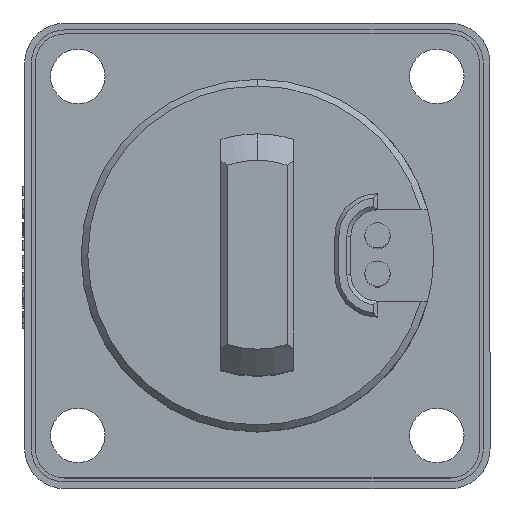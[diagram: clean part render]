
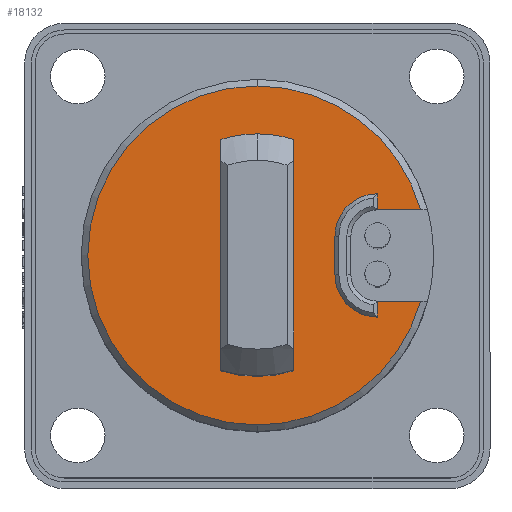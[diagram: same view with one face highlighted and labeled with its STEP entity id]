
A CAD part, top view. The second image highlights one B-rep face of the part: STEP entity #18132.
In plain terms, the highlighted planar face has unit normal (0, 0, 1).
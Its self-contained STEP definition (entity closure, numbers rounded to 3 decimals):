
#136 = DIRECTION ( 'NONE',  ( 1., 0., 0. ) ) ;
#216 = CARTESIAN_POINT ( 'NONE',  ( 6.813, 1.203, 21.8 ) ) ;
#303 = VERTEX_POINT ( 'NONE', #12587 ) ;
#340 = CARTESIAN_POINT ( 'NONE',  ( 0.977, 1.203, 21.8 ) ) ;
#838 = ORIENTED_EDGE ( 'NONE', *, *, #7412, .T. ) ;
#1469 = CARTESIAN_POINT ( 'NONE',  ( 10.013, -2.237, 21.8 ) ) ;
#1685 = LINE ( 'NONE', #9358, #5892 ) ;
#1808 = CARTESIAN_POINT ( 'NONE',  ( 0.977, 1.203, 21.8 ) ) ;
#1812 = DIRECTION ( 'NONE',  ( 0., -1., 0. ) ) ;
#1884 = VECTOR ( 'NONE', #1812, 1000. ) ;
#1922 = DIRECTION ( 'NONE',  ( 1., 0., 0. ) ) ;
#2323 = CARTESIAN_POINT ( 'NONE',  ( 0.977, 10.303, 21.8 ) ) ;
#2363 = ORIENTED_EDGE ( 'NONE', *, *, #14472, .F. ) ;
#2897 = EDGE_CURVE ( 'NONE', #12800, #12412, #6587, .T. ) ;
#3015 = EDGE_CURVE ( 'NONE', #11751, #10341, #12429, .T. ) ;
#3053 = DIRECTION ( 'NONE',  ( 0., -1., 0. ) ) ;
#3110 = DIRECTION ( 'NONE',  ( 0., 0., -1. ) ) ;
#3272 = VERTEX_POINT ( 'NONE', #9890 ) ;
#3285 = CARTESIAN_POINT ( 'NONE',  ( 0.977, -11.547, 21.8 ) ) ;
#3300 = CIRCLE ( 'NONE', #13653, 12.75 ) ;
#3332 = CARTESIAN_POINT ( 'NONE',  ( 0.977, 1.203, 21.8 ) ) ;
#3334 = CARTESIAN_POINT ( 'NONE',  ( 10.013, 4.642, 21.8 ) ) ;
#3391 = DIRECTION ( 'NONE',  ( 0., -1., 0. ) ) ;
#4237 = PLANE ( 'NONE',  #19993 ) ;
#4365 = CARTESIAN_POINT ( 'NONE',  ( 3.727, -7.472, 21.8 ) ) ;
#4412 = ORIENTED_EDGE ( 'NONE', *, *, #12731, .T. ) ;
#4920 = DIRECTION ( 'NONE',  ( 0., -1., 0. ) ) ;
#4928 = CIRCLE ( 'NONE', #19280, 9.1 ) ;
#4984 = AXIS2_PLACEMENT_3D ( 'NONE', #12475, #3110, #14054 ) ;
#5073 = DIRECTION ( 'NONE',  ( 0., 0., -1. ) ) ;
#5078 = CIRCLE ( 'NONE', #4984, 12.75 ) ;
#5266 = LINE ( 'NONE', #1469, #8932 ) ;
#5297 = AXIS2_PLACEMENT_3D ( 'NONE', #14434, #5073, #16026 ) ;
#5343 = VERTEX_POINT ( 'NONE', #14448 ) ;
#5452 = CARTESIAN_POINT ( 'NONE',  ( 0.977, 1.203, 21.8 ) ) ;
#5585 = EDGE_CURVE ( 'NONE', #15892, #11205, #17249, .T. ) ;
#5654 = ORIENTED_EDGE ( 'NONE', *, *, #19412, .T. ) ;
#5735 = VECTOR ( 'NONE', #15186, 1000. ) ;
#5892 = VECTOR ( 'NONE', #9563, 1000. ) ;
#5954 = AXIS2_PLACEMENT_3D ( 'NONE', #18085, #8715, #19630 ) ;
#6034 = CIRCLE ( 'NONE', #18238, 9.1 ) ;
#6036 = CARTESIAN_POINT ( 'NONE',  ( 10.013, 5.842, 21.8 ) ) ;
#6306 = EDGE_CURVE ( 'NONE', #18306, #14327, #19178, .T. ) ;
#6587 = LINE ( 'NONE', #17112, #18600 ) ;
#6969 = EDGE_CURVE ( 'NONE', #10341, #18571, #1685, .T. ) ;
#7020 = DIRECTION ( 'NONE',  ( 1., 0., 0. ) ) ;
#7205 = ORIENTED_EDGE ( 'NONE', *, *, #7371, .F. ) ;
#7279 = LINE ( 'NONE', #12613, #10957 ) ;
#7371 = EDGE_CURVE ( 'NONE', #18006, #11751, #18601, .T. ) ;
#7412 = EDGE_CURVE ( 'NONE', #18059, #11205, #14405, .T. ) ;
#7467 = DIRECTION ( 'NONE',  ( 0., 0., -1. ) ) ;
#7922 = EDGE_CURVE ( 'NONE', #3272, #18571, #5266, .T. ) ;
#7940 = CIRCLE ( 'NONE', #7997, 12.75 ) ;
#7997 = AXIS2_PLACEMENT_3D ( 'NONE', #3332, #14298, #4920 ) ;
#8478 = FACE_OUTER_BOUND ( 'NONE', #18988, .T. ) ;
#8715 = DIRECTION ( 'NONE',  ( 0., 0., 1. ) ) ;
#8877 = ORIENTED_EDGE ( 'NONE', *, *, #7922, .T. ) ;
#8932 = VECTOR ( 'NONE', #14022, 1000. ) ;
#9052 = CARTESIAN_POINT ( 'NONE',  ( 10.013, -0.237, 21.8 ) ) ;
#9358 = CARTESIAN_POINT ( 'NONE',  ( 10.013, 1.203, 21.8 ) ) ;
#9500 = VERTEX_POINT ( 'NONE', #3285 ) ;
#9563 = DIRECTION ( 'NONE',  ( 0., 1., 0. ) ) ;
#9890 = CARTESIAN_POINT ( 'NONE',  ( 13.254, -2.237, 21.8 ) ) ;
#10341 = VERTEX_POINT ( 'NONE', #13193 ) ;
#10640 = DIRECTION ( 'NONE',  ( 0., -1., 0. ) ) ;
#10957 = VECTOR ( 'NONE', #136, 1000. ) ;
#11061 = DIRECTION ( 'NONE',  ( 0., 1., 0. ) ) ;
#11205 = VERTEX_POINT ( 'NONE', #17582 ) ;
#11343 = DIRECTION ( 'NONE',  ( 0., 0., -1. ) ) ;
#11674 = CIRCLE ( 'NONE', #5954, 3.2 ) ;
#11751 = VERTEX_POINT ( 'NONE', #14530 ) ;
#12064 = ORIENTED_EDGE ( 'NONE', *, *, #5585, .F. ) ;
#12385 = AXIS2_PLACEMENT_3D ( 'NONE', #9052, #19985, #10640 ) ;
#12412 = VERTEX_POINT ( 'NONE', #15502 ) ;
#12429 = CIRCLE ( 'NONE', #12385, 3.2 ) ;
#12455 = EDGE_CURVE ( 'NONE', #9500, #5343, #5078, .T. ) ;
#12475 = CARTESIAN_POINT ( 'NONE',  ( 0.977, 1.203, 21.8 ) ) ;
#12507 = EDGE_CURVE ( 'NONE', #18306, #303, #7279, .T. ) ;
#12587 = CARTESIAN_POINT ( 'NONE',  ( 13.254, 4.642, 21.8 ) ) ;
#12613 = CARTESIAN_POINT ( 'NONE',  ( 10.013, 4.642, 21.8 ) ) ;
#12731 = EDGE_CURVE ( 'NONE', #15892, #12412, #6034, .T. ) ;
#12753 = DIRECTION ( 'NONE',  ( 0., 0., -1. ) ) ;
#12800 = VERTEX_POINT ( 'NONE', #16464 ) ;
#13135 = CARTESIAN_POINT ( 'NONE',  ( 6.813, 2.642, 21.8 ) ) ;
#13193 = CARTESIAN_POINT ( 'NONE',  ( 10.013, -3.437, 21.8 ) ) ;
#13427 = ORIENTED_EDGE ( 'NONE', *, *, #16715, .F. ) ;
#13530 = EDGE_LOOP ( 'NONE', ( #12064, #4412, #17073, #5654, #838 ) ) ;
#13590 = CARTESIAN_POINT ( 'NONE',  ( 3.727, -8.797, 21.8 ) ) ;
#13653 = AXIS2_PLACEMENT_3D ( 'NONE', #1808, #12753, #3391 ) ;
#14022 = DIRECTION ( 'NONE',  ( -1., 0., 0. ) ) ;
#14054 = DIRECTION ( 'NONE',  ( 0., -1., 0. ) ) ;
#14298 = DIRECTION ( 'NONE',  ( 0., 0., -1. ) ) ;
#14327 = VERTEX_POINT ( 'NONE', #6036 ) ;
#14405 = CIRCLE ( 'NONE', #5297, 9.1 ) ;
#14434 = CARTESIAN_POINT ( 'NONE',  ( 0.977, 1.203, 21.8 ) ) ;
#14448 = CARTESIAN_POINT ( 'NONE',  ( 0.977, 13.953, 21.8 ) ) ;
#14472 = EDGE_CURVE ( 'NONE', #3272, #9500, #7940, .T. ) ;
#14530 = CARTESIAN_POINT ( 'NONE',  ( 6.813, -0.237, 21.8 ) ) ;
#15000 = VECTOR ( 'NONE', #11061, 1000. ) ;
#15186 = DIRECTION ( 'NONE',  ( 0., 1., 0. ) ) ;
#15230 = ORIENTED_EDGE ( 'NONE', *, *, #6969, .F. ) ;
#15502 = CARTESIAN_POINT ( 'NONE',  ( -1.773, -7.472, 21.8 ) ) ;
#15857 = ORIENTED_EDGE ( 'NONE', *, *, #3015, .F. ) ;
#15892 = VERTEX_POINT ( 'NONE', #4365 ) ;
#16026 = DIRECTION ( 'NONE',  ( 1., 0., 0. ) ) ;
#16302 = FACE_BOUND ( 'NONE', #13530, .T. ) ;
#16396 = DIRECTION ( 'NONE',  ( 0., 0., -1. ) ) ;
#16464 = CARTESIAN_POINT ( 'NONE',  ( -1.773, 9.877, 21.8 ) ) ;
#16715 = EDGE_CURVE ( 'NONE', #5343, #303, #3300, .T. ) ;
#16847 = CARTESIAN_POINT ( 'NONE',  ( -3.723, 1.203, 21.8 ) ) ;
#16849 = EDGE_CURVE ( 'NONE', #14327, #18006, #11674, .T. ) ;
#17073 = ORIENTED_EDGE ( 'NONE', *, *, #2897, .F. ) ;
#17112 = CARTESIAN_POINT ( 'NONE',  ( -1.773, -8.797, 21.8 ) ) ;
#17249 = LINE ( 'NONE', #13590, #5735 ) ;
#17282 = ORIENTED_EDGE ( 'NONE', *, *, #12455, .F. ) ;
#17358 = CARTESIAN_POINT ( 'NONE',  ( 10.013, 1.203, 21.8 ) ) ;
#17582 = CARTESIAN_POINT ( 'NONE',  ( 3.727, 9.877, 21.8 ) ) ;
#18006 = VERTEX_POINT ( 'NONE', #13135 ) ;
#18059 = VERTEX_POINT ( 'NONE', #2323 ) ;
#18070 = ORIENTED_EDGE ( 'NONE', *, *, #16849, .F. ) ;
#18085 = CARTESIAN_POINT ( 'NONE',  ( 10.013, 2.642, 21.8 ) ) ;
#18132 = ADVANCED_FACE ( 'NONE', ( #8478, #16302 ), #4237, .F. ) ;
#18238 = AXIS2_PLACEMENT_3D ( 'NONE', #5452, #16396, #7020 ) ;
#18306 = VERTEX_POINT ( 'NONE', #3334 ) ;
#18424 = DIRECTION ( 'NONE',  ( 0., -1., 0. ) ) ;
#18571 = VERTEX_POINT ( 'NONE', #19507 ) ;
#18600 = VECTOR ( 'NONE', #3053, 1000. ) ;
#18601 = LINE ( 'NONE', #216, #1884 ) ;
#18988 = EDGE_LOOP ( 'NONE', ( #19893, #13427, #17282, #2363, #8877, #15230, #15857, #7205, #18070, #19292 ) ) ;
#19178 = LINE ( 'NONE', #17358, #15000 ) ;
#19280 = AXIS2_PLACEMENT_3D ( 'NONE', #340, #11343, #1922 ) ;
#19292 = ORIENTED_EDGE ( 'NONE', *, *, #6306, .F. ) ;
#19412 = EDGE_CURVE ( 'NONE', #12800, #18059, #4928, .T. ) ;
#19507 = CARTESIAN_POINT ( 'NONE',  ( 10.013, -2.237, 21.8 ) ) ;
#19630 = DIRECTION ( 'NONE',  ( 0., -1., 0. ) ) ;
#19893 = ORIENTED_EDGE ( 'NONE', *, *, #12507, .T. ) ;
#19985 = DIRECTION ( 'NONE',  ( 0., 0., 1. ) ) ;
#19993 = AXIS2_PLACEMENT_3D ( 'NONE', #16847, #7467, #18424 ) ;
